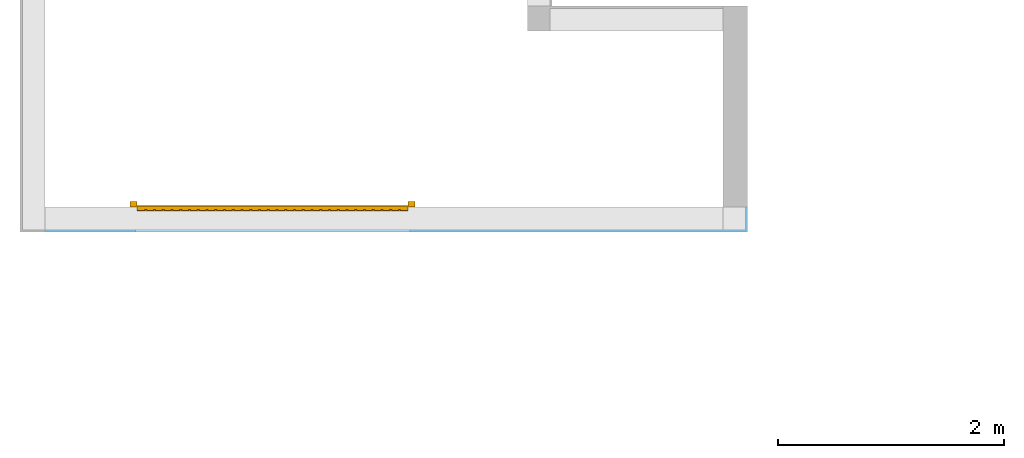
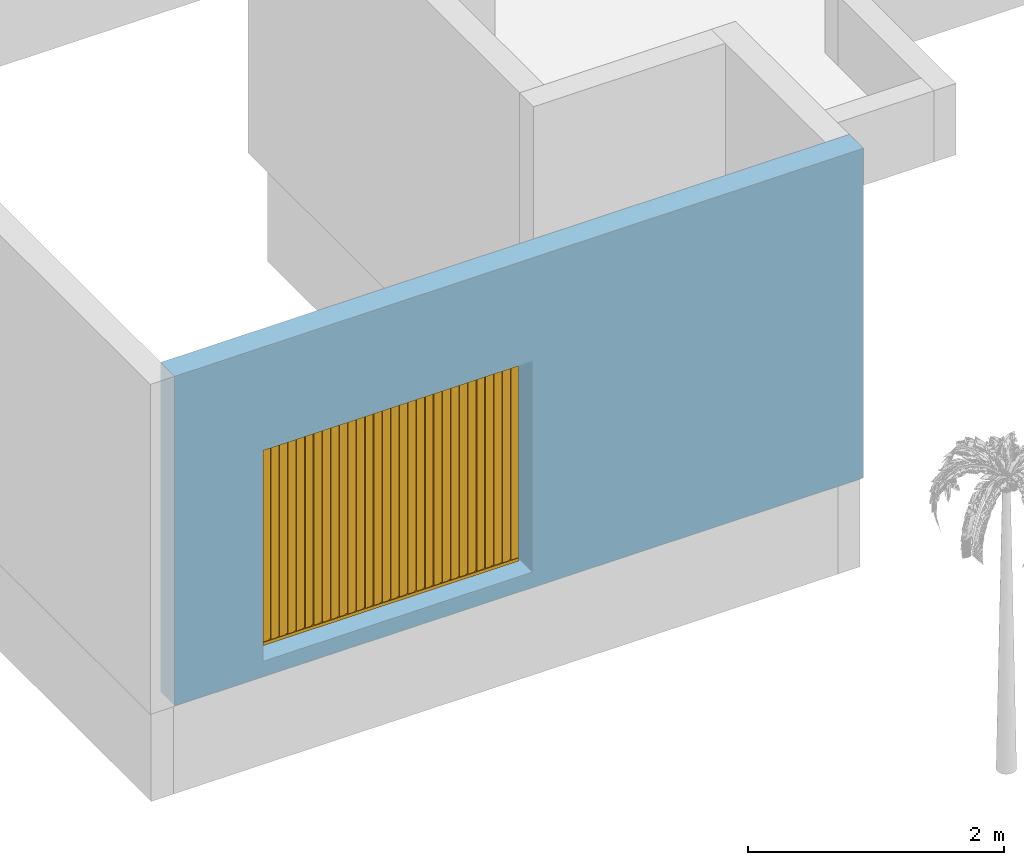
"""IFC2X3 building model written with IfcOpenShell, lengths in metres."""

from ifc_helpers import new_model, entity, si_unit, converted_unit, derived_unit, direction, frame, frame_2d, origin, origin_2d_with_axis, place, context, subcontext, project, spatial, rectangle, extrude, faceted_brep, source, transform, mapped, material, layer, layer_set, layer_usage, type_object, type_shapes, element, fill, save


model = new_model("IFC2X3")

# Units and contexts
model_context = context("Model", 3, precision=1e-05, world=origin(), true_north=direction((6.12303176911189e-17, 1.0)))
body_context = subcontext(model_context, "Body", "Model", "MODEL_VIEW")
ifc_project = project(units=[si_unit("LENGTHUNIT", "METRE"), si_unit("AREAUNIT", "SQUARE_METRE"), si_unit("VOLUMEUNIT", "CUBIC_METRE"), converted_unit("PLANEANGLEUNIT", "DEGREE", entity("IfcRatioMeasure", 0.0174532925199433), si_unit("PLANEANGLEUNIT", "RADIAN"), dimensions=[0, 0, 0, 0, 0, 0, 0]), si_unit("MASSUNIT", "GRAM", prefix="KILO"), derived_unit("MASSDENSITYUNIT", [(si_unit("MASSUNIT", "GRAM", prefix="KILO"), 1), (si_unit("LENGTHUNIT", "METRE"), -3)]), si_unit("TIMEUNIT", "SECOND"), si_unit("FREQUENCYUNIT", "HERTZ"), si_unit("THERMODYNAMICTEMPERATUREUNIT", "DEGREE_CELSIUS"), derived_unit("THERMALTRANSMITTANCEUNIT", [(si_unit("MASSUNIT", "GRAM", prefix="KILO"), 1), (si_unit("THERMODYNAMICTEMPERATUREUNIT", "KELVIN"), -1), (si_unit("TIMEUNIT", "SECOND"), -3)]), derived_unit("VOLUMETRICFLOWRATEUNIT", [(si_unit("LENGTHUNIT", "METRE"), 3), (si_unit("TIMEUNIT", "SECOND"), -1)]), si_unit("ELECTRICCURRENTUNIT", "AMPERE"), si_unit("ELECTRICVOLTAGEUNIT", "VOLT"), si_unit("POWERUNIT", "WATT"), si_unit("FORCEUNIT", "NEWTON", prefix="KILO"), si_unit("ILLUMINANCEUNIT", "LUX"), si_unit("LUMINOUSFLUXUNIT", "LUMEN"), si_unit("LUMINOUSINTENSITYUNIT", "CANDELA"), derived_unit("USERDEFINED", [(si_unit("MASSUNIT", "GRAM", prefix="KILO"), -1), (si_unit("LENGTHUNIT", "METRE"), -2), (si_unit("TIMEUNIT", "SECOND"), 3), (si_unit("LUMINOUSFLUXUNIT", "LUMEN"), 1)]), derived_unit("LINEARVELOCITYUNIT", [(si_unit("LENGTHUNIT", "METRE"), 1), (si_unit("TIMEUNIT", "SECOND"), -1)]), si_unit("PRESSUREUNIT", "PASCAL"), derived_unit("USERDEFINED", [(si_unit("LENGTHUNIT", "METRE"), -2), (si_unit("MASSUNIT", "GRAM", prefix="KILO"), 1), (si_unit("TIMEUNIT", "SECOND"), -2)])], contexts=[model_context])

# Site, building, storey
site_placement = place(None, origin())
site = spatial("IfcSite", under=ifc_project, at=site_placement, Name="Surface", CompositionType="ELEMENT")
building_placement = place(site_placement, origin())
building = spatial("IfcBuilding", under=site, at=building_placement, CompositionType="ELEMENT")
storey_1_placement = place(building_placement, frame((0.0, 0.0, -1.0)))
storey_1 = spatial("IfcBuildingStorey", under=building, at=storey_1_placement, Name="1 Mur de soubassement", CompositionType="ELEMENT", Elevation=-1.0000000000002)

# Wall, opening
ifc_material_1 = material(Name="Maçonnerie - Enduit")
ifc_layer_1 = layer(ifc_material_1, 0.02)
ifc_material_2 = material(Name="Blocs béton manufacturés")
ifc_layer_2 = layer(ifc_material_2, 0.2)
ifc_layer_set = layer_set([ifc_layer_1, ifc_layer_2], Name="Mur de base:Ext. Crépis 2 + BBMC 20")
ifc_layer_usage = layer_usage(ifc_layer_set, "AXIS2", "POSITIVE", -0.11)
wall_type = type_object("IfcWallType", Name="Mur de base:Ext. Crépis 2 + BBMC 20", PredefinedType="STANDARD", material=ifc_layer_set)
wall_placement = place(storey_1_placement, frame((-10.9824888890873, -4.90298932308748, 0.853071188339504)))
wall = element("IfcWallStandardCase", 1, at=wall_placement, inside=storey_1, type_object=wall_type, material=ifc_layer_usage, Name="Mur de base:Ext. Crépis 2 + BBMC 20", ObjectType="Mur de base:Ext. Crépis 2 + BBMC 20", context=body_context, shape_type="SweptSolid", body=[
    extrude(rectangle(XDim=6.21999999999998, YDim=0.22, at=frame_2d((3.10999999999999, 0.0), x_axis=(-1.0, 0.0))), origin(), (0.0, 0.0, 1.0), 3.14692881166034),
])
opening_placement = place(wall_placement, frame((10.9824888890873, 4.90298932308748, 0.146928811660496)))
opening = element("IfcOpeningElement", 2, at=opening_placement, cuts=wall, Name="Mur de base:Ext. Crépis 2 + BBMC 20", ObjectType="Opening", context=body_context, shape_type="SweptSolid", body=[
    extrude(rectangle(XDim=2.01500000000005, YDim=2.42999999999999, at=origin_2d_with_axis()), frame((-8.9674888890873, -5.31298932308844, 1.00750000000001), z_axis=(0.0, 1.0, 0.0), x_axis=(0.0, 0.0, -1.0)), (0.0, 0.0, 1.0), 0.820000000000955),
])

# Storey
storey_2_placement = place(building_placement, origin())
storey_2 = spatial("IfcBuildingStorey", under=building, at=storey_2_placement, Name="RDC", CompositionType="ELEMENT", Elevation=-1.0941605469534e-13)

# Door
ifc_material_3 = material(Name="Peinture - Grise")
door_style = type_object("IfcDoorStyle", Name="3m x 2m", ConstructionType="NOTDEFINED", OperationType="ROLLINGUP", ParameterTakesPrecedence=False, Sizeable=False, material=ifc_material_3)
shared_shape = source(origin(), body_context, "Body", "Brep", [
    faceted_brep([(0.0149999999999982, 0.28500000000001, 2.0), (2.415, 0.284999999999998, 2.0), (2.415, 0.334999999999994, 2.0), (0.0149999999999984, 0.335000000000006, 2.0), (2.415, 0.284999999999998, 0.0), (0.0149999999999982, 0.28500000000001, 0.0), (0.015, 0.334999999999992, 0.0), (2.415, 0.334999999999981, 0.0), (2.34758064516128, 0.320000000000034, 1.97), (2.34758064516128, 0.320000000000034, 0.0300000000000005), (2.32758064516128, 0.320000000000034, 0.0300000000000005), (2.32758064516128, 0.320000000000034, 1.97), (2.32758064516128, 0.329999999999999, 0.0300000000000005), (2.32758064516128, 0.329999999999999, 1.97), (2.27016129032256, 0.329999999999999, 0.0300000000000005), (2.27016129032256, 0.329999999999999, 1.97), (2.27016129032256, 0.320000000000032, 0.0300000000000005), (2.27016129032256, 0.320000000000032, 1.97), (2.25016129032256, 0.320000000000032, 0.0300000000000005), (2.25016129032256, 0.320000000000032, 1.97), (2.25016129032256, 0.329999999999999, 0.0300000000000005), (2.25016129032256, 0.329999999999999, 1.97), (2.19274193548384, 0.329999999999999, 0.0300000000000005), (2.19274193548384, 0.329999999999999, 1.97), (2.19274193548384, 0.32000000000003, 0.0300000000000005), (2.19274193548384, 0.32000000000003, 1.97), (2.17274193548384, 0.32000000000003, 0.0300000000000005), (2.17274193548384, 0.32000000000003, 1.97), (2.17274193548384, 0.329999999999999, 0.0300000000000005), (2.17274193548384, 0.329999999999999, 1.97), (2.11532258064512, 0.329999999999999, 0.0300000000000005), (2.11532258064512, 0.329999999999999, 1.97), (2.11532258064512, 0.320000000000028, 0.0300000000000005), (2.11532258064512, 0.320000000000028, 1.97), (2.09532258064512, 0.320000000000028, 0.0300000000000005), (2.09532258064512, 0.320000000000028, 1.97), (2.09532258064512, 0.329999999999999, 0.0300000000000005), (2.09532258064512, 0.329999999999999, 1.97), (2.03790322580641, 0.33, 0.0300000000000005), (2.03790322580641, 0.33, 1.97), (2.03790322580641, 0.320000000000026, 0.0300000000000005), (2.03790322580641, 0.320000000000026, 1.97), (2.01790322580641, 0.320000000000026, 0.0300000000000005), (2.01790322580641, 0.320000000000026, 1.97), (2.01790322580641, 0.33, 0.0300000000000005), (2.01790322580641, 0.33, 1.97), (1.96048387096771, 0.33, 0.0300000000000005), (1.96048387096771, 0.33, 1.97), (1.96048387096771, 0.320000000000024, 0.0300000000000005), (1.96048387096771, 0.320000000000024, 1.97), (1.94048387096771, 0.320000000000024, 0.0300000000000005), (1.94048387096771, 0.320000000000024, 1.97), (1.94048387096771, 0.33, 0.0300000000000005), (1.94048387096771, 0.33, 1.97), (1.883064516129, 0.33, 0.0300000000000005), (1.883064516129, 0.33, 1.97), (1.883064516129, 0.320000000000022, 0.0300000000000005), (1.883064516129, 0.320000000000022, 1.97), (1.863064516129, 0.320000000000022, 0.0300000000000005), (1.863064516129, 0.320000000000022, 1.97), (1.863064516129, 0.33, 0.0300000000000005), (1.863064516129, 0.33, 1.97), (1.80564516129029, 0.33, 0.0300000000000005), (1.80564516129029, 0.33, 1.97), (1.80564516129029, 0.32000000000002, 0.0300000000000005), (1.80564516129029, 0.32000000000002, 1.97), (1.78564516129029, 0.32000000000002, 0.0300000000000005), (1.78564516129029, 0.32000000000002, 1.97), (1.78564516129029, 0.33, 0.0300000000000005), (1.78564516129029, 0.33, 1.97), (1.72822580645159, 0.330000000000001, 0.0300000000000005), (1.72822580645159, 0.330000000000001, 1.97), (1.72822580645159, 0.320000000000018, 0.0300000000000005), (1.72822580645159, 0.320000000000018, 1.97), (1.70822580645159, 0.320000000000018, 0.0300000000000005), (1.70822580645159, 0.320000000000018, 1.97), (1.70822580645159, 0.330000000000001, 0.0300000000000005), (1.70822580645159, 0.330000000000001, 1.97), (1.65080645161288, 0.330000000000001, 0.0300000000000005), (1.65080645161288, 0.330000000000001, 1.97), (1.65080645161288, 0.320000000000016, 0.0300000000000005), (1.65080645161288, 0.320000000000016, 1.97), (1.63080645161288, 0.320000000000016, 0.0300000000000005), (1.63080645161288, 0.320000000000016, 1.97), (1.63080645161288, 0.330000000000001, 0.0300000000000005), (1.63080645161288, 0.330000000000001, 1.97), (1.57338709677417, 0.330000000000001, 0.0300000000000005), (1.57338709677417, 0.330000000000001, 1.97), (1.57338709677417, 0.320000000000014, 0.0300000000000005), (1.57338709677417, 0.320000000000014, 1.97), (1.55338709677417, 0.320000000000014, 0.0300000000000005), (1.55338709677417, 0.320000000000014, 1.97), (1.55338709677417, 0.330000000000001, 0.0300000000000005), (1.55338709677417, 0.330000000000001, 1.97), (1.49596774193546, 0.330000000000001, 0.0300000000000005), (1.49596774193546, 0.330000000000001, 1.97), (1.49596774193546, 0.320000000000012, 0.0300000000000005), (1.49596774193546, 0.320000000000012, 1.97), (1.47596774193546, 0.320000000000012, 0.0300000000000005), (1.47596774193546, 0.320000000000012, 1.97), (1.47596774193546, 0.330000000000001, 0.0300000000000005), (1.47596774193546, 0.330000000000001, 1.97), (1.41854838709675, 0.330000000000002, 0.0300000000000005), (1.41854838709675, 0.330000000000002, 1.97), (1.41854838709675, 0.32000000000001, 0.0300000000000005), (1.41854838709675, 0.32000000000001, 1.97), (1.39854838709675, 0.32000000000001, 0.0300000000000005), (1.39854838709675, 0.32000000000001, 1.97), (1.39854838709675, 0.330000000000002, 0.0300000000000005), (1.39854838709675, 0.330000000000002, 1.97), (1.34112903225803, 0.330000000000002, 0.0300000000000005), (1.34112903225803, 0.330000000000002, 1.97), (1.34112903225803, 0.320000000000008, 0.0300000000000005), (1.34112903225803, 0.320000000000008, 1.97), (1.32112903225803, 0.320000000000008, 0.0300000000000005), (1.32112903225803, 0.320000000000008, 1.97), (1.32112903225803, 0.330000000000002, 0.0300000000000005), (1.32112903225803, 0.330000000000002, 1.97), (1.26370967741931, 0.330000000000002, 0.0300000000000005), (1.26370967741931, 0.330000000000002, 1.97), (1.26370967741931, 0.320000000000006, 0.0300000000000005), (1.26370967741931, 0.320000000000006, 1.97), (1.24370967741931, 0.320000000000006, 0.0300000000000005), (1.24370967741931, 0.320000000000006, 1.97), (1.24370967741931, 0.330000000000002, 0.0300000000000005), (1.24370967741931, 0.330000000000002, 1.97), (1.1862903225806, 0.330000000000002, 0.0300000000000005), (1.1862903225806, 0.330000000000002, 1.97), (1.1862903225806, 0.320000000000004, 0.0300000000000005), (1.1862903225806, 0.320000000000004, 1.97), (1.1662903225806, 0.320000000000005, 0.0300000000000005), (1.1662903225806, 0.320000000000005, 1.97), (1.1662903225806, 0.330000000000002, 0.0300000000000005), (1.1662903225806, 0.330000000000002, 1.97), (1.10887096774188, 0.330000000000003, 0.0300000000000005), (1.10887096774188, 0.330000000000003, 1.97), (1.10887096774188, 0.320000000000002, 0.0300000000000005), (1.10887096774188, 0.320000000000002, 1.97), (1.08887096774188, 0.320000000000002, 0.0300000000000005), (1.08887096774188, 0.320000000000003, 1.97), (1.08887096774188, 0.330000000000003, 0.0300000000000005), (1.08887096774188, 0.330000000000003, 1.97), (1.03145161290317, 0.330000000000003, 0.0300000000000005), (1.03145161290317, 0.330000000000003, 1.97), (1.03145161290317, 0.32, 0.0300000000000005), (1.03145161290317, 0.32, 1.97), (1.01145161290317, 0.320000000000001, 0.0300000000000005), (1.01145161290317, 0.320000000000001, 1.97), (1.01145161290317, 0.330000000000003, 0.0300000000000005), (1.01145161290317, 0.330000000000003, 1.97), (0.954032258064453, 0.330000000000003, 0.0300000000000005), (0.954032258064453, 0.330000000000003, 1.97), (0.954032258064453, 0.319999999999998, 0.0300000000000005), (0.954032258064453, 0.319999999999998, 1.97), (0.934032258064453, 0.319999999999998, 0.0300000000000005), (0.934032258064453, 0.319999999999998, 1.97), (0.934032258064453, 0.330000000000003, 0.0300000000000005), (0.934032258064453, 0.330000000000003, 1.97), (0.876612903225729, 0.330000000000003, 0.0300000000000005), (0.876612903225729, 0.330000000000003, 1.97), (0.876612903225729, 0.319999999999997, 0.0300000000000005), (0.876612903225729, 0.319999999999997, 1.97), (0.856612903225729, 0.319999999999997, 0.0300000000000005), (0.856612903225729, 0.319999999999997, 1.97), (0.856612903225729, 0.330000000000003, 0.0300000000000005), (0.856612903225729, 0.330000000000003, 1.97), (0.799193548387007, 0.330000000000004, 0.0300000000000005), (0.799193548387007, 0.330000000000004, 1.97), (0.799193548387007, 0.319999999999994, 0.0300000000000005), (0.799193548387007, 0.319999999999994, 1.97), (0.779193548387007, 0.319999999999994, 0.0300000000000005), (0.779193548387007, 0.319999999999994, 1.97), (0.779193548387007, 0.330000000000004, 0.0300000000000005), (0.779193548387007, 0.330000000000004, 1.97), (0.721774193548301, 0.330000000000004, 0.0300000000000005), (0.721774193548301, 0.330000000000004, 1.97), (0.721774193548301, 0.319999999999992, 0.0300000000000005), (0.721774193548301, 0.319999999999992, 1.97), (0.701774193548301, 0.319999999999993, 0.0300000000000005), (0.701774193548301, 0.319999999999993, 1.97), (0.701774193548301, 0.330000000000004, 0.0300000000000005), (0.701774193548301, 0.330000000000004, 1.97), (0.644354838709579, 0.330000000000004, 0.0300000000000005), (0.644354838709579, 0.330000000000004, 1.97), (0.644354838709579, 0.31999999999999, 0.0300000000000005), (0.644354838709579, 0.31999999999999, 1.97), (0.624354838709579, 0.319999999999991, 0.0300000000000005), (0.624354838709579, 0.319999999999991, 1.97), (0.624354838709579, 0.330000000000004, 0.0300000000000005), (0.624354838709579, 0.330000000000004, 1.97), (0.566935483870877, 0.330000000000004, 0.0300000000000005), (0.566935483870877, 0.330000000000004, 1.97), (0.566935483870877, 0.319999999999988, 0.0300000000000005), (0.566935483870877, 0.319999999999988, 1.97), (0.546935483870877, 0.319999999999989, 0.0300000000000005), (0.546935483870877, 0.319999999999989, 1.97), (0.546935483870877, 0.330000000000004, 0.0300000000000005), (0.546935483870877, 0.330000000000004, 1.97), (0.489516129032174, 0.330000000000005, 0.0300000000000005), (0.489516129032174, 0.330000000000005, 1.97), (0.489516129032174, 0.319999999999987, 0.0300000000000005), (0.489516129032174, 0.319999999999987, 1.97), (0.469516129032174, 0.319999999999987, 0.0300000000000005), (0.469516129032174, 0.319999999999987, 1.97), (0.469516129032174, 0.330000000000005, 0.0300000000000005), (0.469516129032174, 0.330000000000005, 1.97), (0.412096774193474, 0.330000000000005, 0.0300000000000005), (0.412096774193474, 0.330000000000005, 1.97), (0.412096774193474, 0.319999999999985, 0.0300000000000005), (0.412096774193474, 0.319999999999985, 1.97), (0.392096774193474, 0.319999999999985, 0.0300000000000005), (0.392096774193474, 0.319999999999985, 1.97), (0.392096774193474, 0.330000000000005, 0.0300000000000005), (0.392096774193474, 0.330000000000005, 1.97), (0.334677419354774, 0.330000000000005, 0.0300000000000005), (0.334677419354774, 0.330000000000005, 1.97), (0.334677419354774, 0.319999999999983, 0.0300000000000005), (0.334677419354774, 0.319999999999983, 1.97), (0.314677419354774, 0.319999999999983, 0.0300000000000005), (0.314677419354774, 0.319999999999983, 1.97), (0.314677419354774, 0.330000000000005, 0.0300000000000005), (0.314677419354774, 0.330000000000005, 1.97), (0.257258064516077, 0.330000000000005, 0.0300000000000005), (0.257258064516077, 0.330000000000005, 1.97), (0.257258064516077, 0.319999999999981, 0.0300000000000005), (0.257258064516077, 0.319999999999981, 1.97), (0.237258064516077, 0.319999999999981, 0.0300000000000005), (0.237258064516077, 0.319999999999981, 1.97), (0.237258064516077, 0.330000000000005, 0.0300000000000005), (0.237258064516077, 0.330000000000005, 1.97), (0.179838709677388, 0.330000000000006, 0.0300000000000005), (0.179838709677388, 0.330000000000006, 1.97), (0.179838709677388, 0.319999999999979, 0.0300000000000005), (0.179838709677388, 0.319999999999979, 1.97), (0.159838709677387, 0.319999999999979, 0.0300000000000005), (0.159838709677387, 0.319999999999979, 1.97), (0.159838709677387, 0.330000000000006, 0.0300000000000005), (0.159838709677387, 0.330000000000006, 1.97), (0.102419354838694, 0.330000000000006, 0.0300000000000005), (0.102419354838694, 0.330000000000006, 1.97), (0.102419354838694, 0.319999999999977, 0.0300000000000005), (0.102419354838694, 0.319999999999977, 1.97), (0.0824193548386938, 0.319999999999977, 0.0300000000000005), (0.0824193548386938, 0.319999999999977, 1.97), (0.0824193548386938, 0.330000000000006, 0.0300000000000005), (0.0824193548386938, 0.330000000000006, 1.97), (0.015, 0.330000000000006, 0.0300000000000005), (0.015, 0.330000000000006, 1.97), (0.015, 0.335000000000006, 1.97), (0.015, 0.334999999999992, 0.0300000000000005), (0.0149999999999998, 0.28500000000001, 0.0300000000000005), (0.0149999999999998, 0.290000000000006, 0.0300000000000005), (0.0149999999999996, 0.290000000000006, 1.97), (0.0149999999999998, 0.28500000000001, 1.97), (2.415, 0.289999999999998, 0.0300000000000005), (2.415, 0.289999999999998, 1.97), (2.415, 0.284999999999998, 1.97), (2.415, 0.284999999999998, 0.0300000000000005), (2.415, 0.334999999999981, 0.0300000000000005), (2.415, 0.329999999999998, 0.0300000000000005), (2.415, 0.329999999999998, 1.97), (2.415, 0.334999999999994, 1.97), (2.34758064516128, 0.329999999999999, 0.0300000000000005), (2.34758064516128, 0.329999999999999, 1.97)], [[[0, 1, 2, 3]], [[4, 5, 6, 7]], [[8, 9, 10, 11]], [[11, 10, 12, 13]], [[13, 12, 14, 15]], [[15, 14, 16, 17]], [[17, 16, 18, 19]], [[19, 18, 20, 21]], [[21, 20, 22, 23]], [[23, 22, 24, 25]], [[25, 24, 26, 27]], [[27, 26, 28, 29]], [[29, 28, 30, 31]], [[31, 30, 32, 33]], [[33, 32, 34, 35]], [[35, 34, 36, 37]], [[37, 36, 38, 39]], [[39, 38, 40, 41]], [[41, 40, 42, 43]], [[43, 42, 44, 45]], [[45, 44, 46, 47]], [[47, 46, 48, 49]], [[49, 48, 50, 51]], [[51, 50, 52, 53]], [[53, 52, 54, 55]], [[55, 54, 56, 57]], [[57, 56, 58, 59]], [[59, 58, 60, 61]], [[61, 60, 62, 63]], [[63, 62, 64, 65]], [[65, 64, 66, 67]], [[67, 66, 68, 69]], [[69, 68, 70, 71]], [[71, 70, 72, 73]], [[73, 72, 74, 75]], [[75, 74, 76, 77]], [[77, 76, 78, 79]], [[79, 78, 80, 81]], [[81, 80, 82, 83]], [[83, 82, 84, 85]], [[85, 84, 86, 87]], [[87, 86, 88, 89]], [[89, 88, 90, 91]], [[91, 90, 92, 93]], [[93, 92, 94, 95]], [[95, 94, 96, 97]], [[97, 96, 98, 99]], [[99, 98, 100, 101]], [[101, 100, 102, 103]], [[103, 102, 104, 105]], [[105, 104, 106, 107]], [[107, 106, 108, 109]], [[109, 108, 110, 111]], [[111, 110, 112, 113]], [[113, 112, 114, 115]], [[115, 114, 116, 117]], [[117, 116, 118, 119]], [[119, 118, 120, 121]], [[121, 120, 122, 123]], [[123, 122, 124, 125]], [[125, 124, 126, 127]], [[127, 126, 128, 129]], [[129, 128, 130, 131]], [[131, 130, 132, 133]], [[133, 132, 134, 135]], [[135, 134, 136, 137]], [[137, 136, 138, 139]], [[139, 138, 140, 141]], [[141, 140, 142, 143]], [[143, 142, 144, 145]], [[145, 144, 146, 147]], [[147, 146, 148, 149]], [[149, 148, 150, 151]], [[151, 150, 152, 153]], [[153, 152, 154, 155]], [[155, 154, 156, 157]], [[157, 156, 158, 159]], [[159, 158, 160, 161]], [[161, 160, 162, 163]], [[163, 162, 164, 165]], [[165, 164, 166, 167]], [[167, 166, 168, 169]], [[169, 168, 170, 171]], [[171, 170, 172, 173]], [[173, 172, 174, 175]], [[175, 174, 176, 177]], [[177, 176, 178, 179]], [[179, 178, 180, 181]], [[181, 180, 182, 183]], [[183, 182, 184, 185]], [[185, 184, 186, 187]], [[187, 186, 188, 189]], [[189, 188, 190, 191]], [[191, 190, 192, 193]], [[193, 192, 194, 195]], [[195, 194, 196, 197]], [[197, 196, 198, 199]], [[199, 198, 200, 201]], [[201, 200, 202, 203]], [[203, 202, 204, 205]], [[205, 204, 206, 207]], [[207, 206, 208, 209]], [[209, 208, 210, 211]], [[211, 210, 212, 213]], [[213, 212, 214, 215]], [[215, 214, 216, 217]], [[217, 216, 218, 219]], [[219, 218, 220, 221]], [[221, 220, 222, 223]], [[223, 222, 224, 225]], [[225, 224, 226, 227]], [[227, 226, 228, 229]], [[229, 228, 230, 231]], [[231, 230, 232, 233]], [[233, 232, 234, 235]], [[235, 234, 236, 237]], [[237, 236, 238, 239]], [[239, 238, 240, 241]], [[241, 240, 242, 243]], [[243, 242, 244, 245]], [[245, 244, 246, 247]], [[0, 3, 248, 247, 246, 249, 6, 5, 250, 251, 252, 253]], [[252, 251, 254, 255]], [[2, 1, 256, 255, 254, 257, 4, 7, 258, 259, 260, 261]], [[260, 259, 262, 263]], [[9, 8, 263, 262]], [[256, 253, 252, 255]], [[2, 261, 248, 3]], [[256, 1, 0, 253]], [[4, 257, 250, 5]], [[258, 7, 6, 249]], [[250, 257, 254, 251]], [[258, 249, 246, 244, 242, 240, 238, 236, 234, 232, 230, 228, 226, 224, 222, 220, 218, 216, 214, 212, 210, 208, 206, 204, 202, 200, 198, 196, 194, 192, 190, 188, 186, 184, 182, 180, 178, 176, 174, 172, 170, 168, 166, 164, 162, 160, 158, 156, 154, 152, 150, 148, 146, 144, 142, 140, 138, 136, 134, 132, 130, 128, 126, 124, 122, 120, 118, 116, 114, 112, 110, 108, 106, 104, 102, 100, 98, 96, 94, 92, 90, 88, 86, 84, 82, 80, 78, 76, 74, 72, 70, 68, 66, 64, 62, 60, 58, 56, 54, 52, 50, 48, 46, 44, 42, 40, 38, 36, 34, 32, 30, 28, 26, 24, 22, 20, 18, 16, 14, 12, 10, 9, 262, 259]], [[248, 261, 260, 263, 8, 11, 13, 15, 17, 19, 21, 23, 25, 27, 29, 31, 33, 35, 37, 39, 41, 43, 45, 47, 49, 51, 53, 55, 57, 59, 61, 63, 65, 67, 69, 71, 73, 75, 77, 79, 81, 83, 85, 87, 89, 91, 93, 95, 97, 99, 101, 103, 105, 107, 109, 111, 113, 115, 117, 119, 121, 123, 125, 127, 129, 131, 133, 135, 137, 139, 141, 143, 145, 147, 149, 151, 153, 155, 157, 159, 161, 163, 165, 167, 169, 171, 173, 175, 177, 179, 181, 183, 185, 187, 189, 191, 193, 195, 197, 199, 201, 203, 205, 207, 209, 211, 213, 215, 217, 219, 221, 223, 225, 227, 229, 231, 233, 235, 237, 239, 241, 243, 245, 247]]]),
    faceted_brep([(0.0149999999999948, 0.25, 0.0), (-0.0450000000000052, 0.25, 0.0), (-0.0450000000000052, 0.3, 0.0), (0.0149999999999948, 0.3, 0.0), (0.0149999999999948, 0.25, 2.0), (2.415, 0.25, 2.0), (2.415, 0.25, 0.0), (2.475, 0.25, 0.0), (2.475, 0.25, 2.06000000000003), (-0.0450000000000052, 0.25, 2.06000000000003), (-0.0450000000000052, 0.3, 2.06000000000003), (2.475, 0.3, 2.06000000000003), (2.475, 0.3, 0.0), (2.415, 0.3, 0.0), (2.415, 0.3, 2.0), (0.014999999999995, 0.3, 2.0)], [[[0, 1, 2, 3]], [[1, 0, 4, 5, 6, 7, 8, 9]], [[2, 1, 9, 10]], [[3, 2, 10, 11, 12, 13, 14, 15]], [[0, 3, 15, 4]], [[5, 14, 13, 6]], [[6, 13, 12, 7]], [[11, 8, 7, 12]], [[10, 9, 8, 11]], [[4, 15, 14, 5]]]),
])
type_shapes(door_style, [shared_shape])
door_placement = place(opening_placement, frame((-7.7524888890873, -4.49298932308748, 0.0), z_axis=(0.0, 0.0, 1.0), x_axis=(-1.0, 0.0, 0.0)))
door = element("IfcDoor", 3, at=door_placement, inside=storey_2, type_object=door_style, material=ifc_material_3, Name="Garage basculante:3m x 2m", ObjectType="3m x 2m", OverallHeight=2.42999999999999, OverallWidth=2.01500000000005, context=body_context, shape_type="MappedRepresentation", body=[
    mapped(shared_shape, transform((0.0, 0.0, 0.0), scale=1.0)),
])

fill(opening, door)

save(model, "model.ifc")
